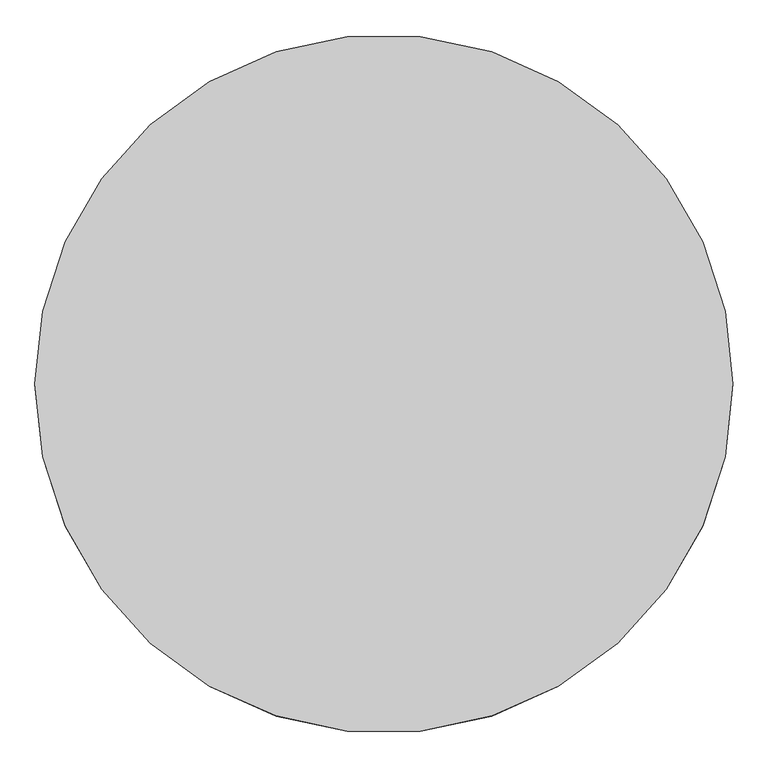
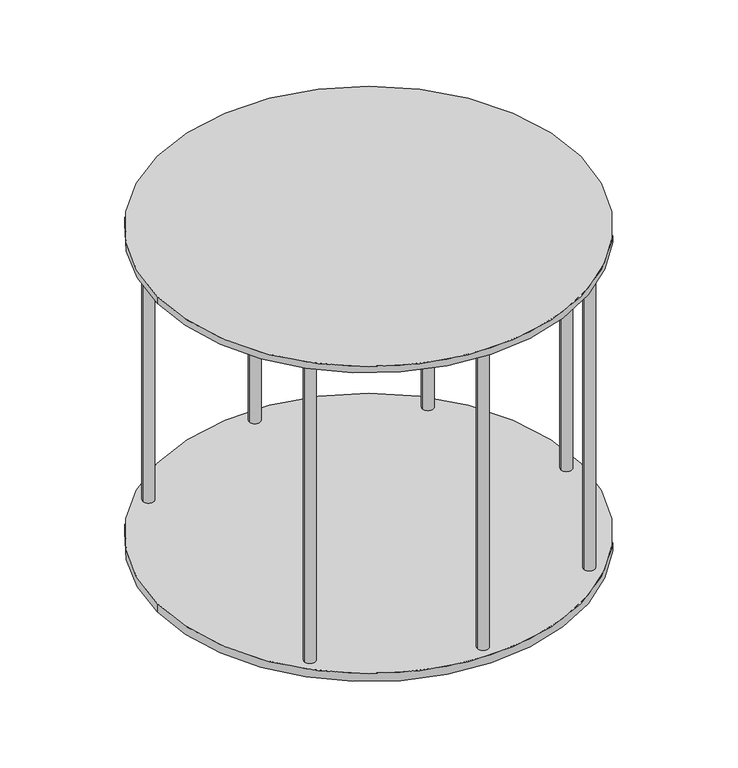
"""IFC4 building model written with IfcOpenShell, lengths in millimetres: proxy geometry, Pavillon, Unterstand, Schuppen und dgl. : Pavillon, Unterstand, Schuppen und dgl.."""

from ifc_helpers import new_model, si_unit, point, frame, frame_2d, origin, origin_with_axes, origin_2d, place, context, project, spatial, circle_curve, trimmed, segment, composite_curve, outline, extrude, source, transform, mapped, element, save


def entourage_04cd11f9(model_context):
    return source(origin(), model_context, "Body", "SweptSolid", [
        extrude(outline(composite_curve([segment(trimmed(circle_curve(origin_2d(), 1500.0), [point((-1500.0, 0.0))], [point((1500.0, 0.0))], False, "CARTESIAN"), True, "CONTINUOUS"), segment(trimmed(circle_curve(origin_2d(), 1500.0), [point((1500.0, 0.0))], [point((-1500.0, 0.0))], False, "CARTESIAN"), True, "CONTINUOUS")], self_intersect=False)), frame((0.0, 0.0, -60.4662296), z_axis=(0.0, 0.0, 1.0), x_axis=(1.0, 0.0, 0.0)), (0.0, 0.0, 1.0), 60.4662296),
        extrude(outline(composite_curve([segment(trimmed(circle_curve(frame_2d((0.0, 1400.0)), 40.0), [point((-40.0, 1400.0))], [point((40.0, 1400.0))], False, "CARTESIAN"), True, "CONTINUOUS"), segment(trimmed(circle_curve(frame_2d((0.0, 1400.0)), 40.0), [point((40.0, 1400.0))], [point((-40.0, 1400.0))], False, "CARTESIAN"), True, "CONTINUOUS")], self_intersect=False)), origin_with_axes(), (0.0, 0.0, 1.0), 2251.4518572),
        extrude(outline(composite_curve([segment(trimmed(circle_curve(frame_2d((989.9494937, 989.9494937)), 40.0), [point((949.9494937, 989.9494937))], [point((1029.9494937, 989.9494937))], False, "CARTESIAN"), True, "CONTINUOUS"), segment(trimmed(circle_curve(frame_2d((989.9494937, 989.9494937)), 40.0), [point((1029.9494937, 989.9494937))], [point((949.9494937, 989.9494937))], False, "CARTESIAN"), True, "CONTINUOUS")], self_intersect=False)), origin_with_axes(), (0.0, 0.0, 1.0), 2251.4518572),
        extrude(outline(composite_curve([segment(trimmed(circle_curve(frame_2d((1400.0, 0.0)), 40.0), [point((1360.0, 0.0))], [point((1440.0, 0.0))], False, "CARTESIAN"), True, "CONTINUOUS"), segment(trimmed(circle_curve(frame_2d((1400.0, 0.0)), 40.0), [point((1440.0, 0.0))], [point((1360.0, 0.0))], False, "CARTESIAN"), True, "CONTINUOUS")], self_intersect=False)), origin_with_axes(), (0.0, 0.0, 1.0), 2251.4518572),
        extrude(outline(composite_curve([segment(trimmed(circle_curve(frame_2d((989.9494937, -989.9494937)), 40.0), [point((949.9494937, -989.9494937))], [point((1029.9494937, -989.9494937))], False, "CARTESIAN"), True, "CONTINUOUS"), segment(trimmed(circle_curve(frame_2d((989.9494937, -989.9494937)), 40.0), [point((1029.9494937, -989.9494937))], [point((949.9494937, -989.9494937))], False, "CARTESIAN"), True, "CONTINUOUS")], self_intersect=False)), origin_with_axes(), (0.0, 0.0, 1.0), 2251.4518572),
        extrude(outline(composite_curve([segment(trimmed(circle_curve(frame_2d((0.0, -1400.0)), 40.0), [point((-40.0, -1400.0))], [point((40.0, -1400.0))], False, "CARTESIAN"), True, "CONTINUOUS"), segment(trimmed(circle_curve(frame_2d((0.0, -1400.0)), 40.0), [point((40.0, -1400.0))], [point((-40.0, -1400.0))], False, "CARTESIAN"), True, "CONTINUOUS")], self_intersect=False)), origin_with_axes(), (0.0, 0.0, 1.0), 2251.4518572),
        extrude(outline(composite_curve([segment(trimmed(circle_curve(frame_2d((-989.9494937, -989.9494937)), 40.0), [point((-1029.9494937, -989.9494937))], [point((-949.9494937, -989.9494937))], False, "CARTESIAN"), True, "CONTINUOUS"), segment(trimmed(circle_curve(frame_2d((-989.9494937, -989.9494937)), 40.0), [point((-949.9494937, -989.9494937))], [point((-1029.9494937, -989.9494937))], False, "CARTESIAN"), True, "CONTINUOUS")], self_intersect=False)), origin_with_axes(), (0.0, 0.0, 1.0), 2251.4518572),
        extrude(outline(composite_curve([segment(trimmed(circle_curve(frame_2d((-989.9494937, 989.9494937)), 40.0), [point((-1029.9494937, 989.9494937))], [point((-949.9494937, 989.9494937))], False, "CARTESIAN"), True, "CONTINUOUS"), segment(trimmed(circle_curve(frame_2d((-989.9494937, 989.9494937)), 40.0), [point((-949.9494937, 989.9494937))], [point((-1029.9494937, 989.9494937))], False, "CARTESIAN"), True, "CONTINUOUS")], self_intersect=False)), origin_with_axes(), (0.0, 0.0, 1.0), 2251.4518572),
        extrude(outline(composite_curve([segment(trimmed(circle_curve(origin_2d(), 1500.0), [point((-1500.0, 0.0))], [point((1500.0, 0.0))], False, "CARTESIAN"), True, "CONTINUOUS"), segment(trimmed(circle_curve(origin_2d(), 1500.0), [point((1500.0, 0.0))], [point((-1500.0, 0.0))], False, "CARTESIAN"), True, "CONTINUOUS")], self_intersect=False)), frame((0.0, 0.0, 2251.4518572), z_axis=(0.0, 0.0, 1.0), x_axis=(1.0, 0.0, 0.0)), (0.0, 0.0, 1.0), 48.5481428),
    ])


if __name__ == "__main__":
    model = new_model("IFC4")
    model_context = context("Model", 3, world=origin())
    ifc_project = project(units=[si_unit("LENGTHUNIT", "METRE", prefix="MILLI")], contexts=[model_context])
    site = spatial("IfcSite", under=ifc_project)
    building = spatial("IfcBuilding", under=site)
    placement = place(None, origin())
    entourage_shape = entourage_04cd11f9(model_context)
    element("IfcBuildingElementProxy", 1, Name="Pavillon, Unterstand, Schuppen und dgl. : Pavillon, Unterstand, Schuppen und dgl.", ObjectType="Pavillon, Unterstand, Schuppen und dgl. : Pavillon, Unterstand, Schuppen und dgl.", at=placement, inside=building, context=model_context, shape_type="MappedRepresentation", body=[
        mapped(entourage_shape, transform((0.0, 0.0, 0.0), x_axis=(1.0, 0.0, 0.0), y_axis=(0.0, 1.0, 0.0), z_axis=(0.0, 0.0, 1.0))),
    ])
    save(model, "model.ifc")
